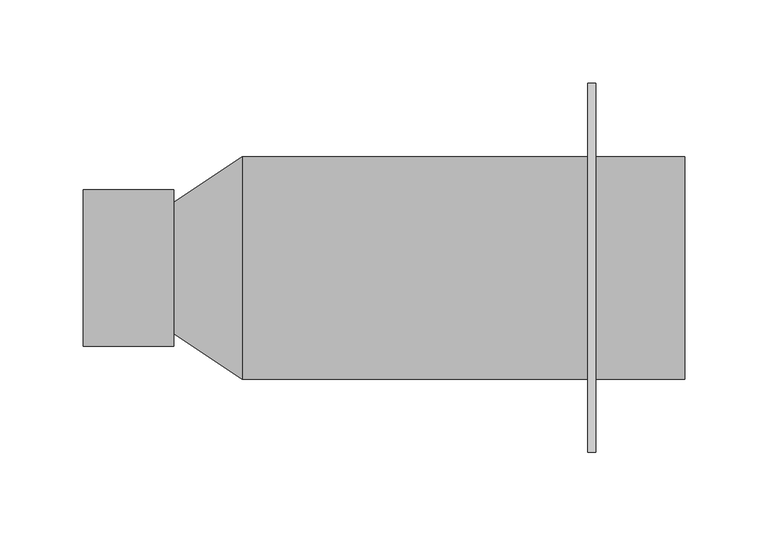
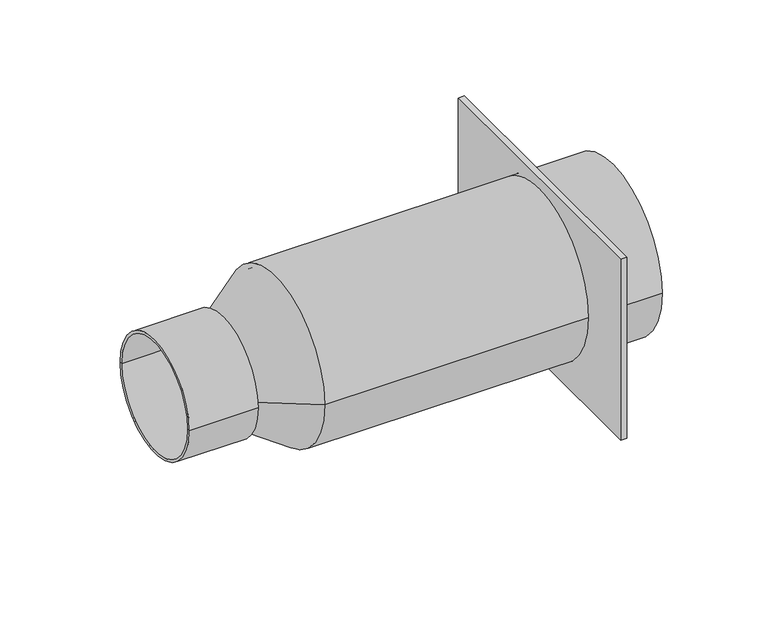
"""IFC4 building model written with IfcOpenShell, lengths in millimetres: duct fitting geometry, NLRS_57_DUF_UN_terminal connection straight_M&G : ø117 - ø125 / ø92."""

import ifcopenshell
import ifcopenshell.guid

model = None  # the IFC model being written
_history = None  # IfcOwnerHistory: only IFC2X3 demands one
_inside = {}  # id of a spatial element -> (the spatial element, [elements in it])
_under = {}  # id of a project, library or spatial element -> (it, [spatial elements below it])
_declared = {}  # id of a project -> (the project, [libraries it declares])
_typed = {}  # id of a type object -> (the type object, [elements of that type])
_made_of = {}  # id of a material, layer set ... -> (it, [elements and type objects made of it])


def new_model(schema):
    """Start an empty IFC model of exactly this schema.

    Asked for "IFC4X3", IfcOpenShell would pick the latest addendum, in which some entities
    have other attributes; the version numbers below select the first issue.
    IFC2X3 requires an IfcOwnerHistory on every rooted entity: one is made here for all.
    """
    global model, _history
    if schema == "IFC4X3":
        model = ifcopenshell.file(schema_version=(4, 3, 0, 0))
    else:
        model = ifcopenshell.file(schema=schema)
    _inside.clear()
    _under.clear()
    _declared.clear()
    _typed.clear()
    _made_of.clear()
    _history = None
    if model.schema == "IFC2X3":
        org = make("IfcOrganization", Name="unknown")
        user = make(
            "IfcPersonAndOrganization",
            ThePerson=make("IfcPerson", FamilyName="unknown"),
            TheOrganization=org,
        )
        app = make(
            "IfcApplication",
            ApplicationDeveloper=org,
            Version="unknown",
            ApplicationFullName="unknown",
            ApplicationIdentifier="unknown",
        )
        _history = make(
            "IfcOwnerHistory",
            OwningUser=user,
            OwningApplication=app,
            ChangeAction="ADDED",
            CreationDate=0,
        )
    return model


def make(cls, **values):
    """One entity of the class cls with the attributes given. An attribute that is None is left unset."""
    return model.create_entity(
        cls, **{name: value for name, value in values.items() if value is not None}
    )


def rooted(cls, **values):
    """An entity with a GlobalId (a new one), such as an element, a storey or a relation."""
    return make(cls, GlobalId=ifcopenshell.guid.new(), OwnerHistory=_history, **values)


def si_unit(unit_type, name, prefix=None):
    """IfcSIUnit, for example si_unit("LENGTHUNIT", "METRE", prefix="MILLI")."""
    return make("IfcSIUnit", UnitType=unit_type, Prefix=prefix, Name=name)


def assignment(units):
    """IfcUnitAssignment: the units of a project."""
    return None if units is None else make("IfcUnitAssignment", Units=units)


def point(xyz):
    """IfcCartesianPoint."""
    return None if xyz is None else make("IfcCartesianPoint", Coordinates=xyz)


def direction(xyz):
    """IfcDirection."""
    return None if xyz is None else make("IfcDirection", DirectionRatios=xyz)


def frame(location, z_axis=None, x_axis=None):
    """IfcAxis2Placement3D, a coordinate frame: its origin and axes. An axis left out is left unset."""
    return make(
        "IfcAxis2Placement3D",
        Location=point(location),
        Axis=direction(z_axis),
        RefDirection=direction(x_axis),
    )


def frame_2d(location, x_axis=None):
    """IfcAxis2Placement2D, a coordinate frame in the plane: its origin and x axis."""
    return make(
        "IfcAxis2Placement2D", Location=point(location), RefDirection=direction(x_axis)
    )


def origin():
    """The frame at (0, 0, 0) with its axes left unset."""
    return frame((0.0, 0.0, 0.0))


def origin_2d():
    """The frame at (0, 0) in the plane with its x axis left unset."""
    return frame_2d((0.0, 0.0))


def place(relative_to, where):
    """IfcLocalPlacement: puts the frame where relative to a parent placement (None: the world)."""
    return make(
        "IfcLocalPlacement", PlacementRelTo=relative_to, RelativePlacement=where
    )


def context(
    kind, dimensions, precision=None, world=None, true_north=None, identifier=None
):
    """IfcGeometricRepresentationContext, for example the 3D "Model" context."""
    return make(
        "IfcGeometricRepresentationContext",
        ContextIdentifier=identifier,
        ContextType=kind,
        CoordinateSpaceDimension=dimensions,
        Precision=precision,
        WorldCoordinateSystem=world,
        TrueNorth=true_north,
    )


def project(units=None, contexts=None):
    """IfcProject with its units and contexts."""
    return rooted(
        "IfcProject",
        Name="project",
        RepresentationContexts=contexts,
        UnitsInContext=assignment(units),
    )


def spatial(cls, under=None, at=None, **own):
    """A site, building, storey or space (cls), placed at a placement, below another one or the project."""
    s = rooted(cls, ObjectPlacement=at, **own)
    if under is not None:
        _under.setdefault(under.id(), (under, []))[1].append(s)
    return s


def polyline(points):
    """IfcPolyline through the points."""
    return make("IfcPolyline", Points=[point(p) for p in points])


def circle_curve(where, radius):
    """IfcCircle in the frame where."""
    return make("IfcCircle", Position=where, Radius=radius)


def trimmed(basis, trim1, trim2, sense, master):
    """IfcTrimmedCurve: the piece of a basis curve between two trims."""
    return make(
        "IfcTrimmedCurve",
        BasisCurve=basis,
        Trim1=trim1,
        Trim2=trim2,
        SenseAgreement=sense,
        MasterRepresentation=master,
    )


def segment(curve, same_sense, transition):
    """IfcCompositeCurveSegment."""
    return make(
        "IfcCompositeCurveSegment",
        Transition=transition,
        SameSense=same_sense,
        ParentCurve=curve,
    )


def composite_curve(segments, self_intersect=None):
    """IfcCompositeCurve: segments joined end to end."""
    return make("IfcCompositeCurve", Segments=segments, SelfIntersect=self_intersect)


def outline(outer, holes=None, kind="AREA"):
    """IfcArbitraryClosedProfileDef: a profile drawn as a closed curve; with holes, ...WithVoids."""
    if holes is None:
        return make("IfcArbitraryClosedProfileDef", ProfileType=kind, OuterCurve=outer)
    return make(
        "IfcArbitraryProfileDefWithVoids",
        ProfileType=kind,
        OuterCurve=outer,
        InnerCurves=holes,
    )


def extrude(swept, where, along, depth):
    """IfcExtrudedAreaSolid: the profile swept, set in the frame where, extruded along a direction by depth."""
    return make(
        "IfcExtrudedAreaSolid",
        SweptArea=swept,
        Position=where,
        ExtrudedDirection=direction(along),
        Depth=depth,
    )


def shape(context_of_items, identifier, shape_type, items):
    """IfcShapeRepresentation: the items that make up one representation, for example the "Body"."""
    return make(
        "IfcShapeRepresentation",
        ContextOfItems=context_of_items,
        RepresentationIdentifier=identifier,
        RepresentationType=shape_type,
        Items=items,
    )


def source(mapping_origin, context_of_items, identifier, shape_type, items):
    """IfcRepresentationMap: a shape defined once, which mapped items show again and again."""
    return make(
        "IfcRepresentationMap",
        MappingOrigin=mapping_origin,
        MappedRepresentation=shape(context_of_items, identifier, shape_type, items),
    )


def transform(
    local_origin,
    x_axis=None,
    y_axis=None,
    z_axis=None,
    scale=None,
    scale2=None,
    scale3=None,
    uniform=True,
):
    """IfcCartesianTransformationOperator3D, or its non-uniform kind. x_axis, y_axis, z_axis: its Axis1, 2, 3."""
    if uniform:
        return make(
            "IfcCartesianTransformationOperator3D",
            Axis1=direction(x_axis),
            Axis2=direction(y_axis),
            LocalOrigin=point(local_origin),
            Scale=scale,
            Axis3=direction(z_axis),
        )
    return make(
        "IfcCartesianTransformationOperator3DnonUniform",
        Axis1=direction(x_axis),
        Axis2=direction(y_axis),
        LocalOrigin=point(local_origin),
        Scale=scale,
        Axis3=direction(z_axis),
        Scale2=scale2,
        Scale3=scale3,
    )


def mapped(mapping_source, mapping_target):
    """IfcMappedItem: shows the shape of a source again, moved by a transform."""
    return make(
        "IfcMappedItem", MappingSource=mapping_source, MappingTarget=mapping_target
    )


def made_of(thing, what):
    """Note that an element or type object is made of a material, layer set ...; save() writes the relation."""
    if what is not None:
        _made_of.setdefault(what.id(), (what, []))[1].append(thing)
    return thing


def element(
    cls,
    number,
    at=None,
    inside=None,
    cuts=None,
    type_object=None,
    material=None,
    context=None,
    identifier="Body",
    shape_type=None,
    held_by="IfcProductDefinitionShape",
    body=None,
    shapes=None,
    **own,
):
    """One element of the class cls, such as IfcWall. Its Tag is "e" and its number.

    at: its placement. inside: the storey or other place that contains it. cuts: it is an
    opening in that element (IfcRelVoidsElement). A single representation is given by context,
    identifier, shape_type and body (its items); several are given by shapes. held_by: the class
    of the entity that holds the representations. save() writes the other relations.
    """
    e = rooted(cls, Tag="e%d" % number, ObjectPlacement=at, **own)
    if body is not None:
        shapes = [shape(context, identifier, shape_type, body)]
    if shapes is not None:
        e.Representation = make(held_by, Representations=shapes)
    if inside is not None:
        _inside.setdefault(inside.id(), (inside, []))[1].append(e)
    if cuts is not None:
        rooted(
            "IfcRelVoidsElement", RelatingBuildingElement=cuts, RelatedOpeningElement=e
        )
    if type_object is not None:
        _typed.setdefault(type_object.id(), (type_object, []))[1].append(e)
    return made_of(e, material)


def aggregate(whole, parts):
    """IfcRelAggregates: a whole, such as a stair, and the parts it consists of."""
    return rooted("IfcRelAggregates", RelatingObject=whole, RelatedObjects=parts)


def save(model, path):
    """Write the relations noted so far, then the file.

    IfcRelAggregates (storeys below a building ...), IfcRelContainedInSpatialStructure (elements
    in a storey), IfcRelDefinesByType, IfcRelAssociatesMaterial and IfcRelDeclares: one each for
    every whole, place, type object, material and project.
    """
    for whole, parts in _under.values():
        aggregate(whole, parts)
    for where, things in _inside.values():
        rooted(
            "IfcRelContainedInSpatialStructure",
            RelatedElements=things,
            RelatingStructure=where,
        )
    for kind, things in _typed.values():
        rooted("IfcRelDefinesByType", RelatedObjects=things, RelatingType=kind)
    for what, things in _made_of.values():
        rooted("IfcRelAssociatesMaterial", RelatedObjects=things, RelatingMaterial=what)
    for by, libraries in _declared.values():
        rooted("IfcRelDeclares", RelatingContext=by, RelatedDefinitions=libraries)
    model.write(path)


def plane_surface(at):
    """IfcPlane: the flat surface through the origin of the frame at, square to its z axis."""
    return make("IfcPlane", Position=at)


def cylinder_surface(at, radius):
    """IfcCylindricalSurface: all points at the distance radius from the z axis of the frame at."""
    return make("IfcCylindricalSurface", Position=at, Radius=radius)


def revolved_surface(curve, axis_point, axis_direction):
    """IfcSurfaceOfRevolution: the curve turned about the line through axis_point along axis_direction."""
    return make(
        "IfcSurfaceOfRevolution",
        SweptCurve=make("IfcArbitraryOpenProfileDef", ProfileType="CURVE", Curve=curve),
        AxisPosition=make("IfcAxis1Placement", Location=point(axis_point), Axis=direction(axis_direction)),
    )


def advanced_brep(points, edges, surfaces, faces):
    """IfcAdvancedBrep: a solid bounded by faces that lie on surfaces and meet in shared edges.

    An edge is (start, end): straight between two places in points (the first is 0);
    or (start, end, curve); or (start, end, curve, False) where it runs against its curve.
    A face is (place in surfaces, loops), or (place, loops, False) where it looks against
    its surface's normal. A loop lists edges by number (the first is 1), with a minus sign
    where the edge is run from its end to its start. The first loop is the outer one.
    """
    corners = [point(p) for p in points]
    vertices = [make("IfcVertexPoint", VertexGeometry=c) for c in corners]
    made = []
    for start, end, *more in edges:
        made.append(
            make(
                "IfcEdgeCurve",
                EdgeStart=vertices[start],
                EdgeEnd=vertices[end],
                EdgeGeometry=more[0] if more else make("IfcPolyline", Points=[corners[start], corners[end]]),
                SameSense=more[1] if len(more) > 1 else True,
            )
        )
    hull = []
    for where, loops, *sense in faces:
        bounds = []
        for j, loop in enumerate(loops):
            ring = [make("IfcOrientedEdge", EdgeElement=made[abs(k) - 1], Orientation=k > 0) for k in loop]
            bounds.append(
                make(
                    "IfcFaceOuterBound" if j == 0 else "IfcFaceBound",
                    Bound=make("IfcEdgeLoop", EdgeList=ring),
                    Orientation=True,
                )
            )
        hull.append(make("IfcAdvancedFace", Bounds=bounds, FaceSurface=surfaces[where], SameSense=sense[0] if sense else True))
    return make("IfcAdvancedBrep", Outer=make("IfcClosedShell", CfsFaces=hull))


def duct_fitting_36d2aa07(model_context):
    return source(origin(), model_context, "Body", "SolidModel", [
        advanced_brep(
        [(54.0, -39.5, 0.0), (54.0, 39.5, 0.0), (95.0, 66.5, 0.0), (95.0, -66.5, 0.0), (360.0, -66.5, 0.0), (360.0, 66.5, 0.0), (360.0, 62.5, 0.0), (360.0, -62.5, 0.0), (54.0, -47.0, 0.0), (54.0, 47.0, 0.0), (0.0, -47.0, 0.0), (0.0, 47.0, 0.0), (0.0, -45.0, 0.0), (0.0, 45.0, 0.0), (52.5, -45.0, 0.0), (52.5, 45.0, 0.0), (52.5, -33.722756, 0.0), (52.5, 33.722756, 0.0), (96.1987779, -62.5, 0.0), (96.1987779, 62.5, 0.0)],
        [
            (0, 1, circle_curve(frame((54.0, 0.0, 0.0), z_axis=(1.0, 0.0, 0.0), x_axis=(0.0, 1.0, 0.0)), 39.5)),
            (1, 2),
            (2, 3, circle_curve(frame((95.0, 0.0, 0.0), z_axis=(-1.0, 0.0, 0.0), x_axis=(0.0, 1.0, 0.0)), 66.5)),
            (3, 0),
            (1, 0, circle_curve(frame((54.0, 0.0, 0.0), z_axis=(1.0, 0.0, 0.0), x_axis=(0.0, 1.0, 0.0)), 39.5)),
            (3, 2, circle_curve(frame((95.0, 0.0, 0.0), z_axis=(-1.0, 0.0, 0.0), x_axis=(0.0, 1.0, 0.0)), 66.5)),
            (4, 5, circle_curve(frame((360.0, 0.0, 0.0), z_axis=(1.0, 0.0, 0.0), x_axis=(0.0, 1.0, 0.0)), 66.5)),
            (5, 6),
            (6, 7, circle_curve(frame((360.0, 0.0, 0.0), z_axis=(-1.0, 0.0, 0.0), x_axis=(0.0, 1.0, 0.0)), 62.5)),
            (7, 4),
            (5, 4, circle_curve(frame((360.0, 0.0, 0.0), z_axis=(1.0, 0.0, 0.0), x_axis=(0.0, 1.0, 0.0)), 66.5)),
            (7, 6, circle_curve(frame((360.0, 0.0, 0.0), z_axis=(-1.0, 0.0, 0.0), x_axis=(0.0, 1.0, 0.0)), 62.5)),
            (2, 5),
            (4, 3),
            (8, 9, circle_curve(frame((54.0, 0.0, 0.0), z_axis=(1.0, 0.0, 0.0), x_axis=(0.0, 1.0, 0.0)), 47.0)),
            (9, 1),
            (0, 8),
            (9, 8, circle_curve(frame((54.0, 0.0, 0.0), z_axis=(1.0, 0.0, 0.0), x_axis=(0.0, 1.0, 0.0)), 47.0)),
            (10, 11, circle_curve(frame((0.0, 0.0, 0.0), z_axis=(1.0, 0.0, 0.0), x_axis=(0.0, 1.0, 0.0)), 47.0)),
            (11, 9),
            (8, 10),
            (11, 10, circle_curve(frame((0.0, 0.0, 0.0), z_axis=(1.0, 0.0, 0.0), x_axis=(0.0, 1.0, 0.0)), 47.0)),
            (12, 13, circle_curve(frame((0.0, 0.0, 0.0), z_axis=(1.0, 0.0, 0.0), x_axis=(0.0, 1.0, 0.0)), 45.0)),
            (13, 11),
            (10, 12),
            (13, 12, circle_curve(frame((0.0, 0.0, 0.0), z_axis=(1.0, 0.0, 0.0), x_axis=(0.0, 1.0, 0.0)), 45.0)),
            (14, 15, circle_curve(frame((52.5, 0.0, 0.0), z_axis=(1.0, 0.0, 0.0), x_axis=(0.0, 1.0, 0.0)), 45.0)),
            (15, 13),
            (12, 14),
            (15, 14, circle_curve(frame((52.5, 0.0, 0.0), z_axis=(1.0, 0.0, 0.0), x_axis=(0.0, 1.0, 0.0)), 45.0)),
            (16, 17, circle_curve(frame((52.5, 0.0, 0.0), z_axis=(1.0, 0.0, 0.0), x_axis=(0.0, 1.0, 0.0)), 33.722756)),
            (17, 15),
            (14, 16),
            (17, 16, circle_curve(frame((52.5, 0.0, 0.0), z_axis=(1.0, 0.0, 0.0), x_axis=(0.0, 1.0, 0.0)), 33.722756)),
            (18, 19, circle_curve(frame((96.1987779, 0.0, 0.0), z_axis=(1.0, 0.0, 0.0), x_axis=(0.0, 1.0, 0.0)), 62.5)),
            (19, 17),
            (16, 18),
            (19, 18, circle_curve(frame((96.1987779, 0.0, 0.0), z_axis=(1.0, 0.0, 0.0), x_axis=(0.0, 1.0, 0.0)), 62.5)),
            (6, 19),
            (18, 7),
        ],
        [
            revolved_surface(polyline([(95.0, 66.5, 0.0), (54.0, 39.5, 0.0)]), (0.0, 0.0, 0.0), (-1.0, 0.0, 0.0)),
            plane_surface(frame((360.0, 0.0, 0.0), z_axis=(1.0, 0.0, 0.0), x_axis=(0.0, 1.0, 0.0))),
            cylinder_surface(frame((0.0, 0.0, 0.0), z_axis=(-1.0, 0.0, 0.0), x_axis=(0.0, 1.0, 0.0)), 66.5),
            plane_surface(frame((54.0, 0.0, 0.0), z_axis=(1.0, 0.0, 0.0), x_axis=(0.0, 1.0, 0.0))),
            cylinder_surface(frame((0.0, 0.0, 0.0), z_axis=(-1.0, 0.0, 0.0), x_axis=(0.0, 1.0, 0.0)), 47.0),
            plane_surface(frame((0.0, 0.0, 0.0), z_axis=(-1.0, 0.0, 0.0), x_axis=(0.0, 1.0, 0.0))),
            revolved_surface(polyline([(0.0, 45.0, 0.0), (52.5, 45.0, 0.0)]), (0.0, 0.0, 0.0), (-1.0, 0.0, 0.0)),
            plane_surface(frame((52.5, 0.0, 0.0), z_axis=(-1.0, 0.0, 0.0), x_axis=(0.0, 1.0, 0.0))),
            revolved_surface(polyline([(52.5, 33.722756, 0.0), (96.1987779, 62.5, 0.0)]), (0.0, 0.0, 0.0), (-1.0, 0.0, 0.0)),
            revolved_surface(polyline([(96.1987779, 62.5, 0.0), (360.0, 62.5, 0.0)]), (0.0, 0.0, 0.0), (-1.0, 0.0, 0.0)),
        ],
        [
            (0, [[1, 2, 3, 4]]),
            (0, [[5, -4, 6, -2]]),
            (1, [[7, 8, 9, 10]]),
            (1, [[11, -10, 12, -8]]),
            (2, [[-3, 13, -7, 14]]),
            (2, [[-6, -14, -11, -13]]),
            (3, [[15, 16, -1, 17]]),
            (3, [[18, -17, -5, -16]]),
            (4, [[19, 20, -15, 21]]),
            (4, [[22, -21, -18, -20]]),
            (5, [[23, 24, -19, 25]]),
            (5, [[26, -25, -22, -24]]),
            (6, [[27, 28, -23, 29]]),
            (6, [[30, -29, -26, -28]]),
            (7, [[31, 32, -27, 33]]),
            (7, [[34, -33, -30, -32]]),
            (8, [[35, 36, -31, 37]]),
            (8, [[38, -37, -34, -36]]),
            (9, [[-9, 39, -35, 40]]),
            (9, [[-12, -40, -38, -39]]),
        ],
    ),
        extrude(outline(polyline([(-110.5, 75.0), (110.5, 75.0), (110.5, -75.0), (-110.5, -75.0), (-110.5, 75.0)]), holes=[composite_curve([segment(trimmed(circle_curve(origin_2d(), 66.5), [point((-66.5, 0.0))], [point((66.5, 0.0))], True, "CARTESIAN"), True, "CONTINUOUS"), segment(trimmed(circle_curve(origin_2d(), 66.5), [point((66.5, 0.0))], [point((-66.5, 0.0))], True, "CARTESIAN"), True, "CONTINUOUS")], self_intersect=False)]), frame((301.938202, 0.0, 0.0), z_axis=(1.0, 0.0, 0.0), x_axis=(0.0, 1.0, 0.0)), (0.0, 0.0, 1.0), 5.0),
    ])


if __name__ == "__main__":
    model = new_model("IFC4")
    model_context = context("Model", 3, world=origin())
    ifc_project = project(units=[si_unit("LENGTHUNIT", "METRE", prefix="MILLI")], contexts=[model_context])
    site = spatial("IfcSite", under=ifc_project)
    building = spatial("IfcBuilding", under=site)
    placement = place(None, origin())
    duct_fitting_shape = duct_fitting_36d2aa07(model_context)
    element("IfcDuctFitting", 1, ObjectType="NLRS_57_DUF_UN_terminal connection straight_M&G : ø117 - ø125 / ø92", at=placement, inside=building, context=model_context, shape_type="MappedRepresentation", body=[
        mapped(duct_fitting_shape, transform((0.0, 0.0, 0.0), x_axis=(1.0, 0.0, 0.0), y_axis=(0.0, 1.0, 0.0), z_axis=(0.0, 0.0, 1.0))),
    ])
    save(model, "model.ifc")
